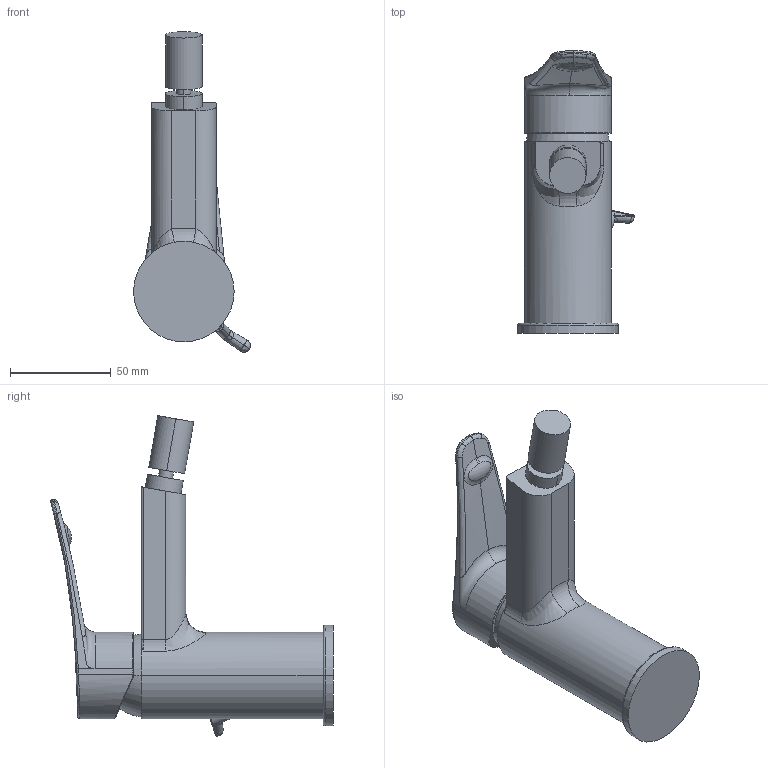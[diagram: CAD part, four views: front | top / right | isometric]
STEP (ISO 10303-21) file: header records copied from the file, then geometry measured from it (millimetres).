
FILE_DESCRIPTION((''),'2;1');
FILE_NAME('BIDET-ACTIVO_SW0001','2018-02-16T',('ES997'),(''),'CREO PARAMETRIC BY PTC INC, 2016260','CREO PARAMETRIC BY PTC INC, 2016260','');
FILE_SCHEMA(('CONFIG_CONTROL_DESIGN'));
Length unit declared in the file: millimetre
Products named in the file (1): BIDET-ACTIVO_SW0001
Bounding box: 57.89 x 139.87 x 158.77 mm (x, y, z)
Volume: 251378.6 mm3; surface area: 35714.1 mm2
Topology: 1 solids, 1 shells, 113 faces, 284 edges, 177 vertices
Faces by surface type: bspline 34, cylinder 33, plane 20, torus 15, sphere 4, extrusion 4, cone 3
Entity records: 53357 total; most frequent: CARTESIAN_POINT 50901, ORIENTED_EDGE 562, DIRECTION 421, EDGE_CURVE 281, AXIS2_PLACEMENT_3D 179, VERTEX_POINT 177, B_SPLINE_CURVE_WITH_KNOTS 122, EDGE_LOOP 120
